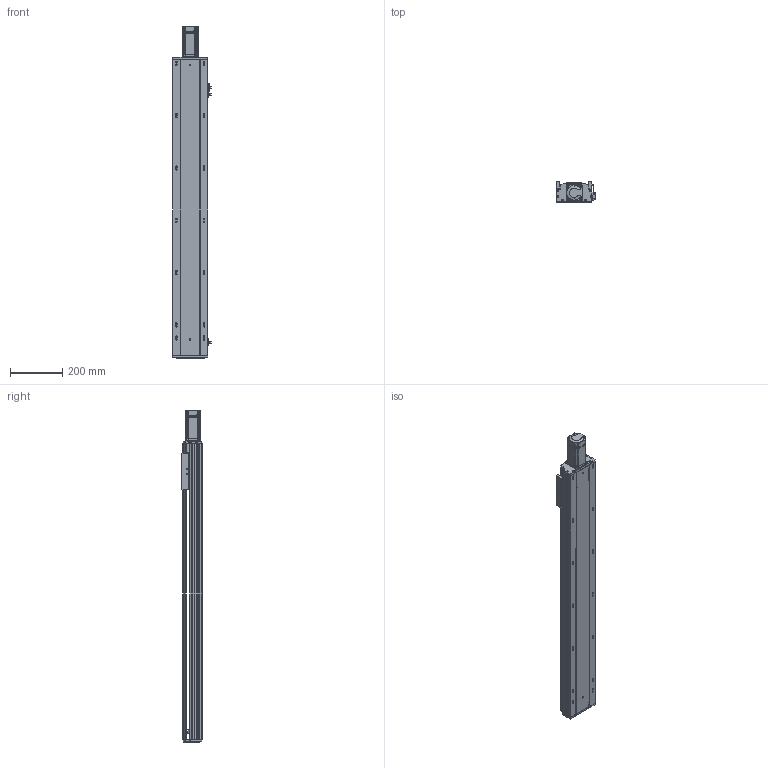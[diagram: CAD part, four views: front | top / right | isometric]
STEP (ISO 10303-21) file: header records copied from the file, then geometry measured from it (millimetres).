
FILE_DESCRIPTION (( 'STEP AP203' ), '1' );
FILE_NAME ('RY140Q-L2010-700-MK.SLDASM_0900.step', '2021-05-27T03:22:36', ( '盈信电脑' ), ( '东莞市道滘镇水果街19号' ), 'SwSTEP 2.0', 'SolidWorks 2016', '' );
FILE_SCHEMA (( 'CONFIG_CONTROL_DESIGN' ));
Length unit declared in the file: millimetre
Products named in the file (14): 滅袉蝶18-15; RY140綴裔啣; 侂狟400W侜督萇儂; RY140ヶ裔啣; RY140Q萇儂傷盓傅釱FK12(80.5酗M5); 鞠褒坶踡蹟譫BK12 ; RY140Q-700-MK倰第奻裔啣_0900; RY120外置感应片(140共用）; RY140Q臏賑輸(20佪裝-J); 滅袉蝶18-10; 15; 覜茼ん672; RY140Q-L2010-700-MK.SLDASM_0900; RY140Q-700-MK倰第菁釱_0900
Assembly tree (16 placements, depth 3):
  RY140Q-L2010-700-MK.SLDASM_0900
    RY140Q-700-MK倰第菁釱_0900
    RY140Q臏賑輸(20佪裝-J)
    RY140Q-700-MK倰第奻裔啣_0900
    RY140ヶ裔啣
    侂狟400W侜督萇儂
      15
    鞠褒坶踡蹟譫BK12 
    RY140綴裔啣
    覜茼ん672  x3
    RY120外置感应片(140共用）
    RY140Q萇儂傷盓傅釱FK12(80.5酗M5)
    滅袉蝶18-10
    滅袉蝶18-15  x2
Bounding box: 148.7 x 78 x 1269.5 mm (x, y, z)
Volume: 3602969.3 mm3; surface area: 1308587.8 mm2
Topology: 15 solids, 15 shells, 2133 faces, 5896 edges, 3769 vertices
Faces by surface type: plane 1090, cylinder 750, cone 208, bspline 85
Entity records: 70527 total; most frequent: CARTESIAN_POINT 16922, ORIENTED_EDGE 11068, DIRECTION 10528, EDGE_CURVE 5534, VERTEX_POINT 3629, LINE 3536, VECTOR 3536, AXIS2_PLACEMENT_3D 3496
